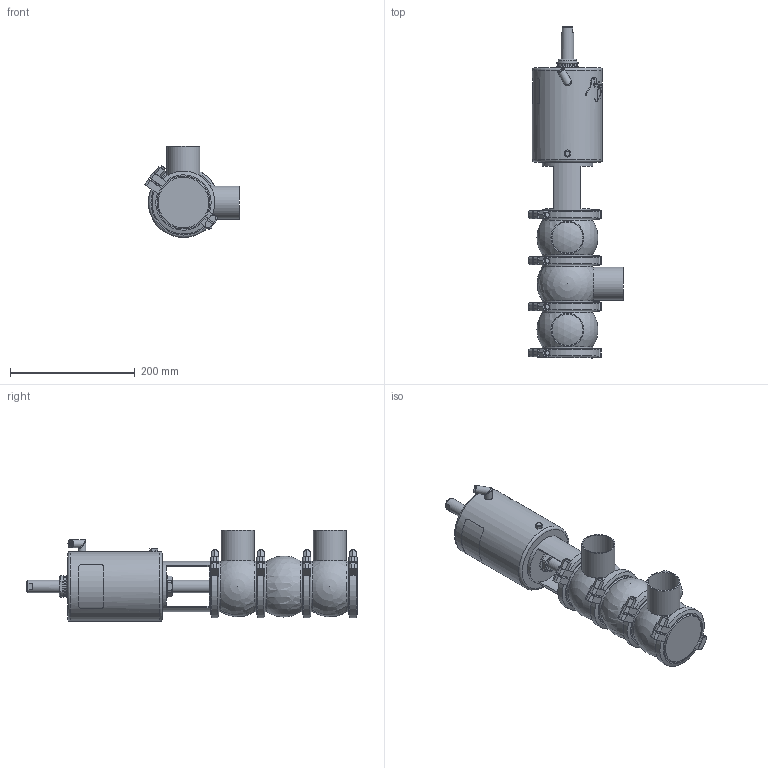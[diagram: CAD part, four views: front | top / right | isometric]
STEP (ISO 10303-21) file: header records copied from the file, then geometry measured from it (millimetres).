
FILE_DESCRIPTION (( 'STEP AP214' ), '1' );
FILE_NAME ('INNOVA L J W DIN 050 T2 AS NC_10.241.16.0013.STEP', '2024-08-07T07:48:52', ( '' ), ( '' ), 'SwSTEP 2.0', 'SolidWorks 2023', '' );
FILE_SCHEMA (( 'AUTOMOTIVE_DESIGN' ));
Length unit declared in the file: millimetre
Products named in the file (6): 10.241.15.0001_DIN 050; 10.240.15.0001_DN 050; 10.240.15.0014_T2 AS P180; 10.240.15.0006_DIN 050; 10.240.15.0010_DN 050; INNOVA L J W DIN 050 T2 AS NC_10.241.16.0013
Assembly tree (10 placements, depth 2):
  INNOVA L J W DIN 050 T2 AS NC_10.241.16.0013
    10.240.15.0006_DIN 050  x3
    10.240.15.0010_DN 050
    10.240.15.0014_T2 AS P180
    10.240.15.0001_DN 050  x4
    10.241.15.0001_DIN 050
Bounding box: 152.59 x 533.27 x 146.25 mm (x, y, z)
Volume: 3312425.1 mm3; surface area: 367961 mm2
Topology: 11 solids, 11 shells, 532 faces, 1400 edges, 911 vertices
Faces by surface type: plane 260, cylinder 136, bspline 80, cone 46, sphere 6, torus 4
Full cylindrical faces by diameter (mm): 6.15 x1, 8 x9, 8.5 x1, 10.5 x1, 12.5 x3, 16 x1, 20 x2, 31 x1, 34.5 x2, 36.5 x1, 50 x3, 53 x3, 81 x8, 93 x8, 112.5 x1
Entity records: 20387 total; most frequent: CARTESIAN_POINT 11264, ORIENTED_EDGE 1592, DIRECTION 1209, EDGE_CURVE 796, VERTEX_POINT 547, AXIS2_PLACEMENT_3D 460, EDGE_LOOP 399, FACE_OUTER_BOUND 360
